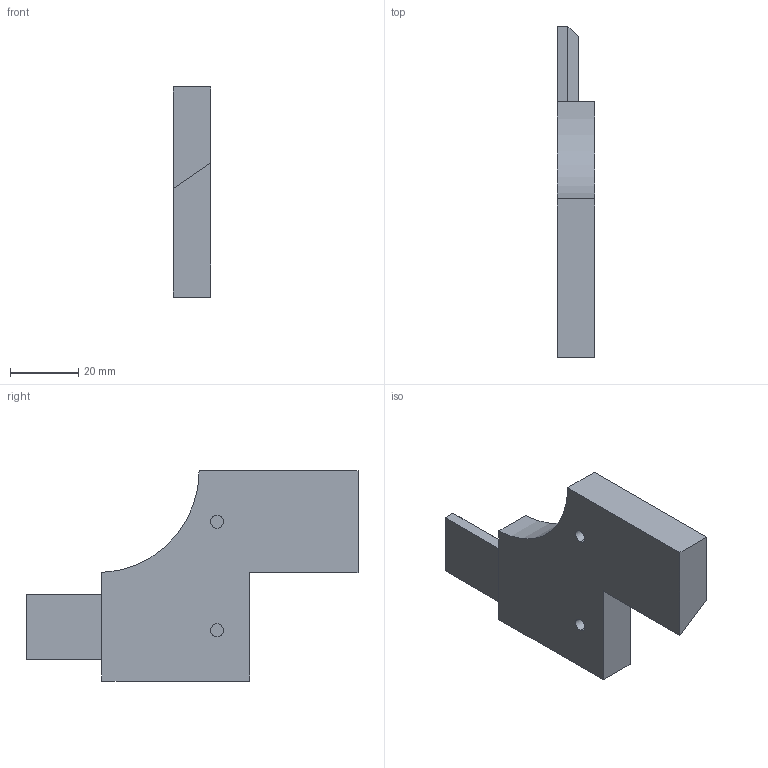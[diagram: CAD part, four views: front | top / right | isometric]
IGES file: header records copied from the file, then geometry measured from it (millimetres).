
Start section: 3D InterOp IGES (Version 21 0 3), Spatial Corp. Copyright (c) 1999-2007.
Global section: file name: CSR ANKLE DETAIL - 20140612.igs; native system: Spatial Corp.; preprocessor: 3D InterOp GENERIC/IGES 3.0; author: Noname; organization: Noname; date: 20140621.121838; units: inch
Bounding box: 11.11 x 97.16 x 61.47 mm (x, y, z)
Surface area: 10149.7 mm2 (no closed solid volume)
Topology: 0 solids, 0 shells, 29 faces, 128 edges, 128 vertices
Faces by surface type: extrusion 24, revolution 5
